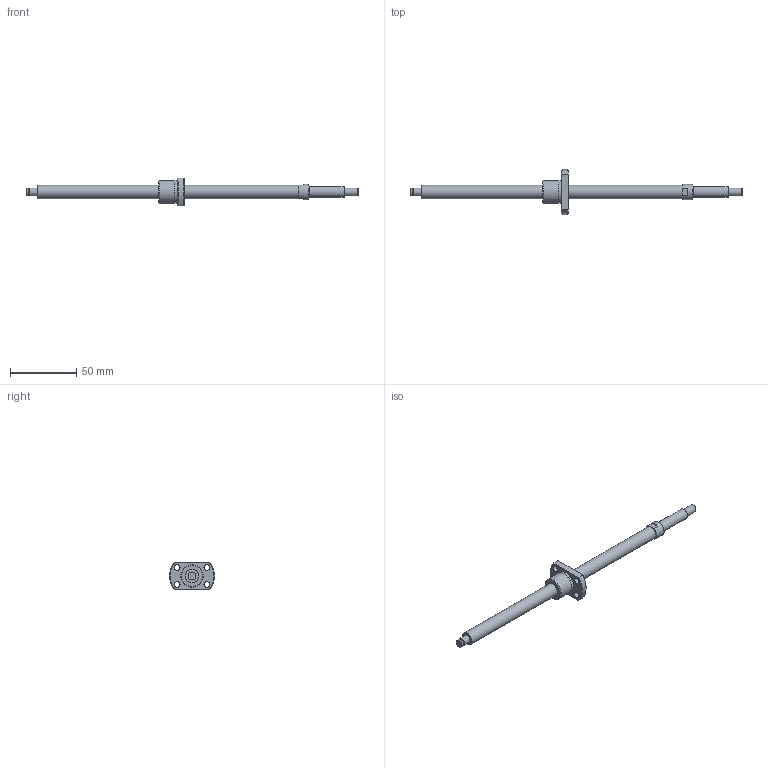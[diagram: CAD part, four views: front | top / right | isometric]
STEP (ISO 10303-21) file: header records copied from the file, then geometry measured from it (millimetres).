
FILE_DESCRIPTION(/* description */ ('STEP AP214'),/* implementation_level */ '2;1');
FILE_NAME(/* name */ 'PSRT1002K-192R250C5B0X(B91)',/* time_stamp */ '2026-08-06T16:14:34+02:00',/* author */ ('License CC BY-ND 4.0'),/* organization */ ('CADENAS'),/* preprocessor_version */ 'ST-DEVELOPER v20',/* originating_system */ 'PARTsolutions',/* authorisation */ ' ');
FILE_SCHEMA (('AUTOMOTIVE_DESIGN {1 0 10303 214 3 1 1}'));
Length unit declared in the file: millimetre
Products named in the file (3): PSRT1002K-192R250C5B0X(B91); PSRT1002KB250_shaft; PSR1002K_nut
Assembly tree (2 placements, depth 2):
  PSRT1002K-192R250C5B0X(B91)
    PSRT1002KB250_shaft
    PSR1002K_nut
Bounding box: 250 x 34 x 21 mm (x, y, z)
Volume: 22744.4 mm3; surface area: 10816.8 mm2
Topology: 2 solids, 2 shells, 44 faces, 91 edges, 58 vertices
Faces by surface type: plane 19, cylinder 16, cone 8, torus 1
Full cylindrical faces by diameter (mm): 4.5 x4, 5.7 x1, 6 x3, 8 x1, 10 x2, 11.5 x1, 16.6 x1, 17 x1
Entity records: 1175 total; most frequent: DIRECTION 202, CARTESIAN_POINT 199, ORIENTED_EDGE 142, AXIS2_PLACEMENT_3D 92, EDGE_LOOP 80, FACE_BOUND 80, EDGE_CURVE 71, VERTEX_POINT 57
